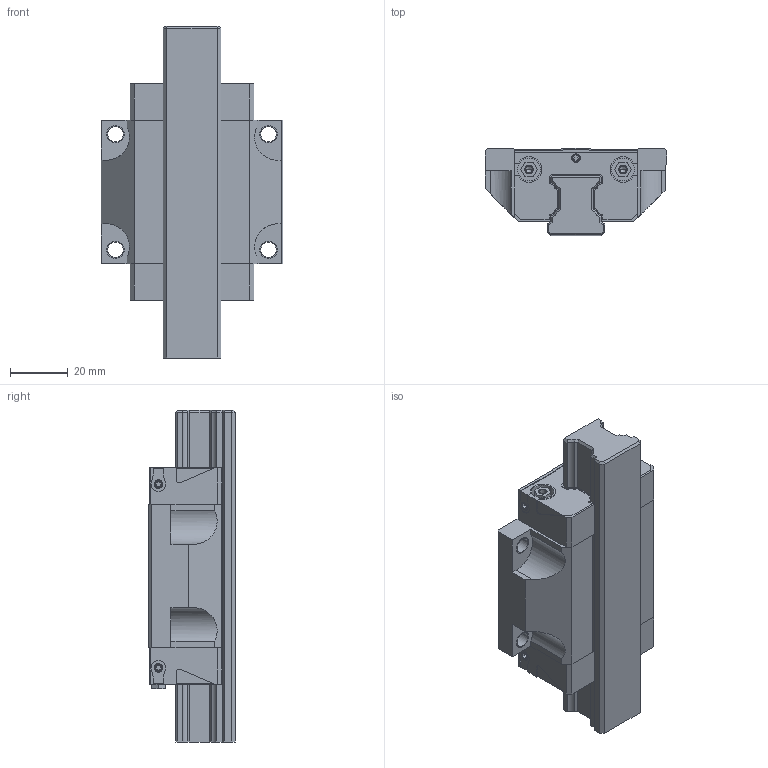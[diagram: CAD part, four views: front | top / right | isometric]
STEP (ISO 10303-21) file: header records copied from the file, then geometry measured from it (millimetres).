
FILE_DESCRIPTION((''),'2;1');
FILE_NAME('KWD_020_FNS_CS__ASM','2021-10-13T04:35:33',('ac91sw'),(''),'CREO PARAMETRIC BY PTC INC, 2020044','CREO PARAMETRIC BY PTC INC, 2020044','');
FILE_SCHEMA(('AUTOMOTIVE_DESIGN { 1 0 10303 214 1 1 1 1 }'));
Length unit declared in the file: millimetre
Products named in the file (7): KWD_020_FNS_CS__SKEL; R200180131; R200180102_Z; R343708901_Z; KWD_020_FNS_CS__PSF; R341702909_Z; KWD_020_FNS_CS__ASM
Assembly tree (11 placements, depth 2):
  KWD_020_FNS_CS__ASM
    KWD_020_FNS_CS__SKEL
    R200180131
    R200180102_Z  x2
    R343708901_Z  x5
    KWD_020_FNS_CS__PSF
    R341702909_Z
Bounding box: 63 x 30 x 115 mm (x, y, z)
Volume: 99841.8 mm3; surface area: 36689.6 mm2
Topology: 10 solids, 28 shells, 543 faces, 1414 edges, 911 vertices
Faces by surface type: plane 317, cylinder 166, cone 60
Entity records: 17631 total; most frequent: CARTESIAN_POINT 2131, DIRECTION 1876, ORIENTED_EDGE 1744, EDGE_CURVE 896, PROPERTY_DEFINITION 825, REPRESENTATION 816, PROPERTY_DEFINITION_REPRESENTATION 816, DESCRIPTIVE_REPRESENTATION_ITEM 759
